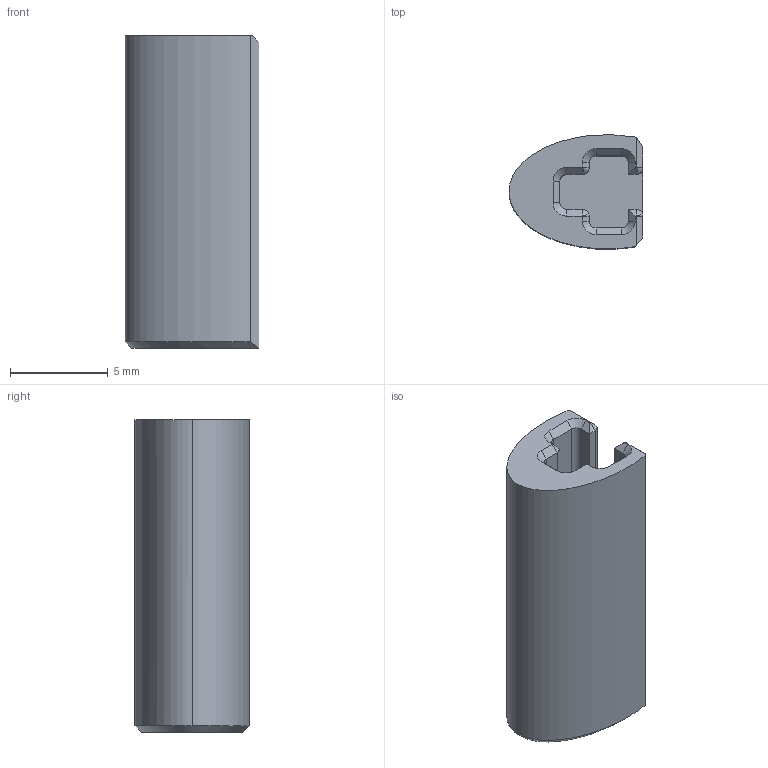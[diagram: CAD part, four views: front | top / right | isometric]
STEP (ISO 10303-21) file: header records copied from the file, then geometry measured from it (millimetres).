
FILE_DESCRIPTION (( 'STEP AP214' ), '1' );
FILE_NAME ('Plastic overlay.STEP', '2024-05-13T21:04:02', ( '' ), ( '' ), 'SwSTEP 2.0', 'SolidWorks 2020', '' );
FILE_SCHEMA (( 'AUTOMOTIVE_DESIGN' ));
Length unit declared in the file: millimetre
Products named in the file (1): Plastic overlay
Bounding box: 6.85 x 5.84 x 16 mm (x, y, z)
Volume: 365.3 mm3; surface area: 561.8 mm2
Topology: 1 solids, 1 shells, 53 faces, 131 edges, 76 vertices
Faces by surface type: plane 30, cylinder 10, cone 10, bspline 3
Entity records: 1999 total; most frequent: CARTESIAN_POINT 756, ORIENTED_EDGE 254, DIRECTION 246, EDGE_CURVE 127, VECTOR 92, LINE 92, AXIS2_PLACEMENT_3D 77, VERTEX_POINT 76
